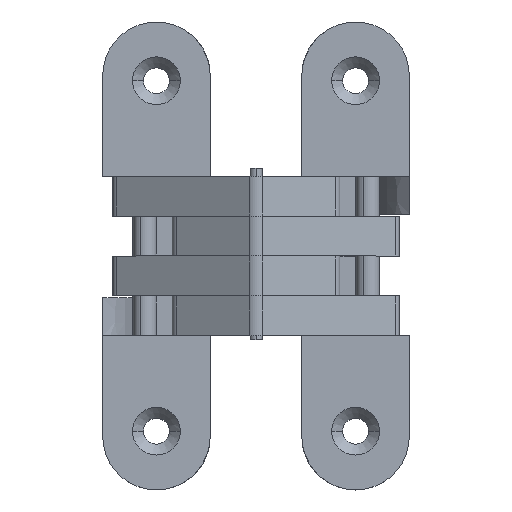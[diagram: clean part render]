
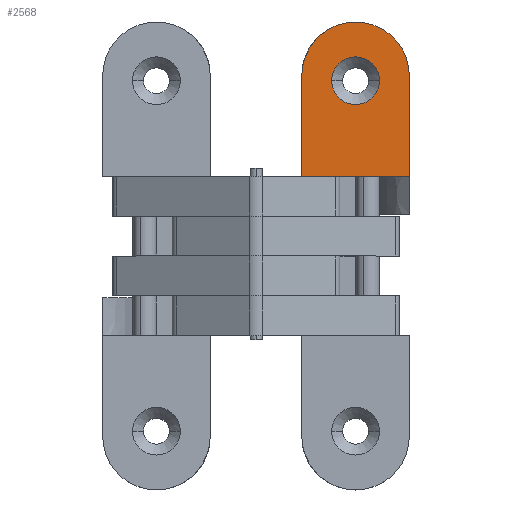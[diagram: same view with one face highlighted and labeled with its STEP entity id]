
A CAD part, top view. The second image highlights one B-rep face of the part: STEP entity #2568.
In plain terms, the highlighted planar face has unit normal (0, 0, 1).
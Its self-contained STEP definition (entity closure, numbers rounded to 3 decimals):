
#2 = ORIENTED_EDGE ( 'NONE', *, *, #3654, .F. ) ;
#39 = ORIENTED_EDGE ( 'NONE', *, *, #3747, .F. ) ;
#101 = ORIENTED_EDGE ( 'NONE', *, *, #3704, .F. ) ;
#181 = ORIENTED_EDGE ( 'NONE', *, *, #3657, .T. ) ;
#195 = ORIENTED_EDGE ( 'NONE', *, *, #3659, .F. ) ;
#202 = ORIENTED_EDGE ( 'NONE', *, *, #3613, .T. ) ;
#601 = CARTESIAN_POINT ( 'NONE',  ( -6.5, 44., 12. ) ) ;
#602 = CARTESIAN_POINT ( 'NONE',  ( 5.5, 44., 12. ) ) ;
#646 = CARTESIAN_POINT ( 'NONE',  ( -14., 45.25, 12. ) ) ;
#647 = CARTESIAN_POINT ( 'NONE',  ( 13., 45.25, 12. ) ) ;
#648 = CARTESIAN_POINT ( 'NONE',  ( 13., 20., 12. ) ) ;
#649 = CARTESIAN_POINT ( 'NONE',  ( -14., 20., 12. ) ) ;
#900 = CARTESIAN_POINT ( 'NONE',  ( -0.5, 45.25, 12. ) ) ;
#901 = DIRECTION ( 'NONE',  ( 0., 0., 1. ) ) ;
#902 = DIRECTION ( 'NONE',  ( 1., 0., 0. ) ) ;
#1011 = CARTESIAN_POINT ( 'NONE',  ( -0.5, 44., 12. ) ) ;
#1012 = DIRECTION ( 'NONE',  ( 0., 0., 1. ) ) ;
#1013 = DIRECTION ( 'NONE',  ( 1., 0., 0. ) ) ;
#1017 = CARTESIAN_POINT ( 'NONE',  ( 13., -93.917, 12. ) ) ;
#1019 = DIRECTION ( 'NONE',  ( 0., 1., 0. ) ) ;
#1022 = CARTESIAN_POINT ( 'NONE',  ( -14., -93.917, 12. ) ) ;
#1023 = DIRECTION ( 'NONE',  ( 0., 1., 0. ) ) ;
#1208 = CARTESIAN_POINT ( 'NONE',  ( 5.5, 20., 12. ) ) ;
#1209 = DIRECTION ( 'NONE',  ( -1., 0., 0. ) ) ;
#1401 = CARTESIAN_POINT ( 'NONE',  ( -0.5, 44., 12. ) ) ;
#1403 = DIRECTION ( 'NONE',  ( 0., 0., 1. ) ) ;
#1404 = DIRECTION ( 'NONE',  ( 1., 0., 0. ) ) ;
#1714 = CIRCLE ( 'NONE', #3418, 13.5 ) ;
#1770 = LINE ( 'NONE', #1017, #1776 ) ;
#1773 = CIRCLE ( 'NONE', #3285, 6. ) ;
#1776 = VECTOR ( 'NONE', #1019, 1000. ) ;
#1780 = LINE ( 'NONE', #1022, #1781 ) ;
#1781 = VECTOR ( 'NONE', #1023, 1000. ) ;
#1828 = VECTOR ( 'NONE', #1209, 1000. ) ;
#1847 = LINE ( 'NONE', #1208, #1828 ) ;
#1911 = CIRCLE ( 'NONE', #3466, 6. ) ;
#2568 = ADVANCED_FACE ( 'NONE', ( #3023, #3003 ), #3917, .T. ) ;
#2639 = EDGE_LOOP ( 'NONE', ( #2, #39 ) ) ;
#2665 = EDGE_LOOP ( 'NONE', ( #101, #181, #202, #195 ) ) ;
#3003 = FACE_OUTER_BOUND ( 'NONE', #2665, .T. ) ;
#3023 = FACE_BOUND ( 'NONE', #2639, .T. ) ;
#3065 = VERTEX_POINT ( 'NONE', #601 ) ;
#3066 = VERTEX_POINT ( 'NONE', #602 ) ;
#3110 = VERTEX_POINT ( 'NONE', #646 ) ;
#3111 = VERTEX_POINT ( 'NONE', #647 ) ;
#3112 = VERTEX_POINT ( 'NONE', #648 ) ;
#3113 = VERTEX_POINT ( 'NONE', #649 ) ;
#3285 = AXIS2_PLACEMENT_3D ( 'NONE', #1011, #1012, #1013 ) ;
#3418 = AXIS2_PLACEMENT_3D ( 'NONE', #900, #901, #902 ) ;
#3466 = AXIS2_PLACEMENT_3D ( 'NONE', #1401, #1403, #1404 ) ;
#3613 = EDGE_CURVE ( 'NONE', #3111, #3110, #1714, .T. ) ;
#3654 = EDGE_CURVE ( 'NONE', #3066, #3065, #1773, .T. ) ;
#3657 = EDGE_CURVE ( 'NONE', #3112, #3111, #1770, .T. ) ;
#3659 = EDGE_CURVE ( 'NONE', #3113, #3110, #1780, .T. ) ;
#3704 = EDGE_CURVE ( 'NONE', #3112, #3113, #1847, .T. ) ;
#3747 = EDGE_CURVE ( 'NONE', #3065, #3066, #1911, .T. ) ;
#3790 = AXIS2_PLACEMENT_3D ( 'NONE', #3914, #3987, #3978 ) ;
#3914 = CARTESIAN_POINT ( 'NONE',  ( -0.5, -93.917, 12. ) ) ;
#3917 = PLANE ( 'NONE',  #3790 ) ;
#3978 = DIRECTION ( 'NONE',  ( 1., 0., 0. ) ) ;
#3987 = DIRECTION ( 'NONE',  ( 0., 0., 1. ) ) ;
